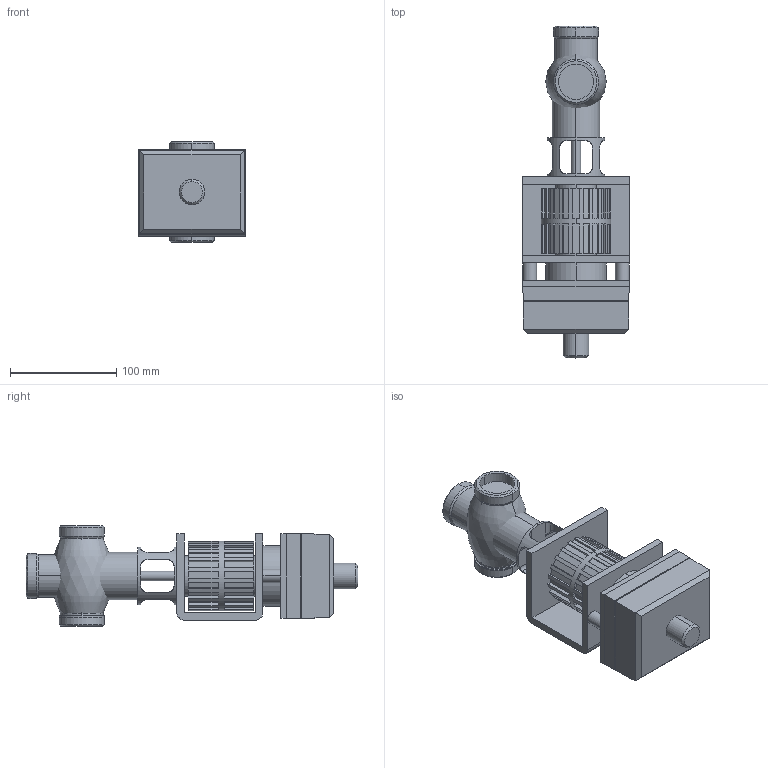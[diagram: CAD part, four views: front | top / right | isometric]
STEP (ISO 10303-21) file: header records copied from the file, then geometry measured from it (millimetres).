
FILE_DESCRIPTION((''),'2;1');
FILE_NAME('000271.stp','2006-10-04T15:56:40',(''),(''),'Mechanical Desktop 2006','Mechanical Desktop 2006',', , ');
FILE_SCHEMA(('AUTOMOTIVE_DESIGN { 1 2 10303 214 0 1 1 1 }'));
Length unit declared in the file: millimetre
Products named in the file (1): Product
Bounding box: 100 x 312.5 x 95 mm (x, y, z)
Volume: 1220459.3 mm3; surface area: 213170.1 mm2
Topology: 26 solids, 26 shells, 490 faces, 1277 edges, 836 vertices
Faces by surface type: plane 226, cylinder 142, bspline 116, cone 6
Entity records: 15689 total; most frequent: CARTESIAN_POINT 3654, ORIENTED_EDGE 2554, DIRECTION 2375, EDGE_CURVE 1277, VECTOR 865, LINE 865, VERTEX_POINT 836, AXIS2_PLACEMENT_3D 755
